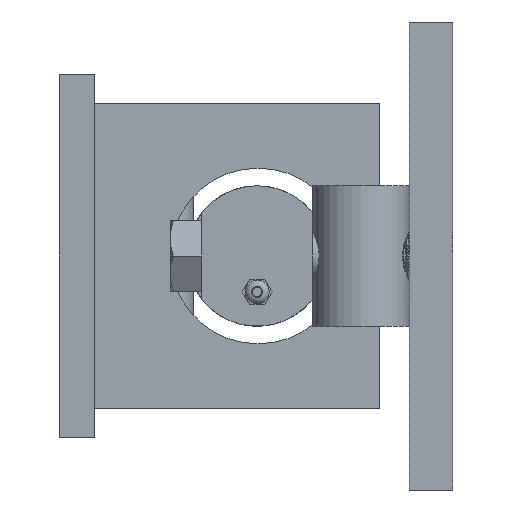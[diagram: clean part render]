
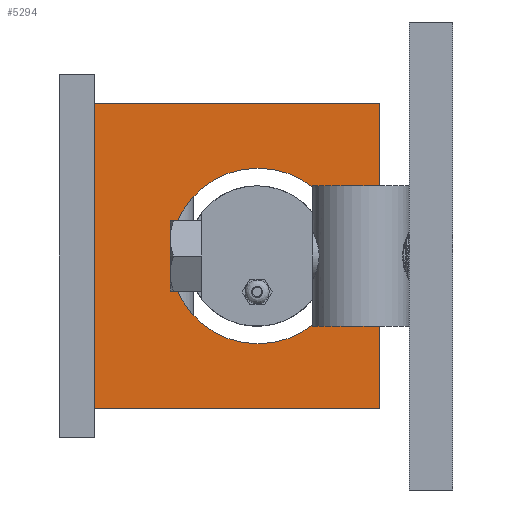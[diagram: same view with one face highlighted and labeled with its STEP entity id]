
A CAD part, left-side view. The second image highlights one B-rep face of the part: STEP entity #5294.
In plain terms, the highlighted planar face has unit normal (-1, 0, 0).
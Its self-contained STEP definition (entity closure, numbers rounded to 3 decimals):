
#200=FACE_BOUND('',#1068,.T.);
#294=PLANE('',#5785);
#432=CIRCLE('',#5784,47.65);
#724=FACE_OUTER_BOUND('',#1067,.T.);
#1067=EDGE_LOOP('',(#4798,#4799,#4800,#4801));
#1068=EDGE_LOOP('',(#4802));
#1619=LINE('',#21634,#1975);
#1634=LINE('',#21828,#1990);
#1635=LINE('',#21830,#1991);
#1636=LINE('',#21831,#1992);
#1975=VECTOR('',#6940,10.);
#1990=VECTOR('',#6991,10.);
#1991=VECTOR('',#6992,10.);
#1992=VECTOR('',#6993,10.);
#2487=VERTEX_POINT('',#21631);
#2488=VERTEX_POINT('',#21633);
#2499=VERTEX_POINT('',#21740);
#2501=VERTEX_POINT('',#21827);
#2502=VERTEX_POINT('',#21829);
#3246=EDGE_CURVE('',#2488,#2487,#1619,.T.);
#3267=EDGE_CURVE('',#2499,#2499,#432,.T.);
#3269=EDGE_CURVE('',#2487,#2501,#1634,.T.);
#3270=EDGE_CURVE('',#2501,#2502,#1635,.T.);
#3271=EDGE_CURVE('',#2502,#2488,#1636,.T.);
#4798=ORIENTED_EDGE('',*,*,#3269,.T.);
#4799=ORIENTED_EDGE('',*,*,#3270,.T.);
#4800=ORIENTED_EDGE('',*,*,#3271,.T.);
#4801=ORIENTED_EDGE('',*,*,#3246,.T.);
#4802=ORIENTED_EDGE('',*,*,#3267,.T.);
#5294=ADVANCED_FACE('',(#724,#200),#294,.F.);
#5784=AXIS2_PLACEMENT_3D('',#21742,#6987,#6988);
#5785=AXIS2_PLACEMENT_3D('',#21826,#6989,#6990);
#6940=DIRECTION('',(0.,0.,-1.));
#6987=DIRECTION('center_axis',(1.,0.,0.));
#6988=DIRECTION('ref_axis',(0.,0.,-1.));
#6989=DIRECTION('center_axis',(1.,0.,0.));
#6990=DIRECTION('ref_axis',(0.,0.,-1.));
#6991=DIRECTION('',(0.,-1.,0.));
#6992=DIRECTION('',(0.,0.,1.));
#6993=DIRECTION('',(0.,1.,0.));
#21631=CARTESIAN_POINT('',(-29.5,194.724,-82.55));
#21633=CARTESIAN_POINT('',(-29.5,194.724,82.55));
#21634=CARTESIAN_POINT('',(-29.5,194.724,82.55));
#21740=CARTESIAN_POINT('',(-29.5,105.824,47.65));
#21742=CARTESIAN_POINT('Origin',(-29.5,105.824,0.));
#21826=CARTESIAN_POINT('Origin',(-29.5,117.224,0.));
#21827=CARTESIAN_POINT('',(-29.5,39.724,-82.55));
#21828=CARTESIAN_POINT('',(-29.5,194.724,-82.55));
#21829=CARTESIAN_POINT('',(-29.5,39.724,82.55));
#21830=CARTESIAN_POINT('',(-29.5,39.724,-82.55));
#21831=CARTESIAN_POINT('',(-29.5,39.724,82.55));
